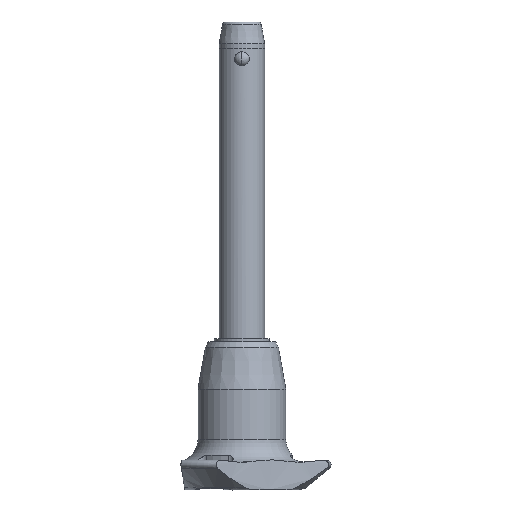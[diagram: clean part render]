
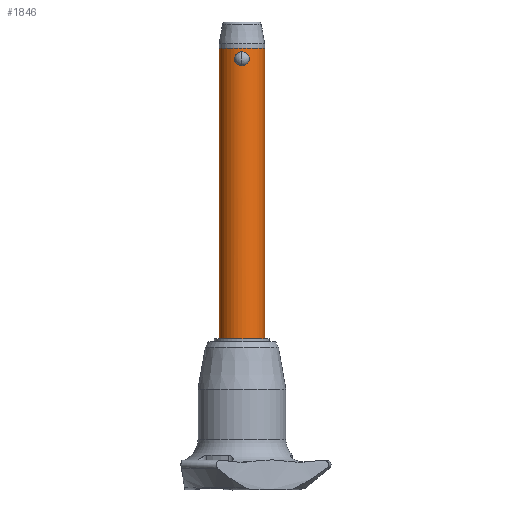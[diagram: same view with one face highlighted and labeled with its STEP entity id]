
A CAD part, front view. The second image highlights one B-rep face of the part: STEP entity #1846.
In plain terms, the highlighted cylindrical face has radius 5 mm (diameter 10 mm), a partial arc.
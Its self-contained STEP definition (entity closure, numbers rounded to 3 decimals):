
#9 = AXIS2_PLACEMENT_3D ( 'NONE', #2600, #1703, #2773 ) ;
#31 = ORIENTED_EDGE ( 'NONE', *, *, #671, .F. ) ;
#53 = ORIENTED_EDGE ( 'NONE', *, *, #118, .F. ) ;
#105 = CARTESIAN_POINT ( 'NONE',  ( 0.205, -5., 0. ) ) ;
#117 = CARTESIAN_POINT ( 'NONE',  ( 0.7, -4.952, 2.888 ) ) ;
#118 = EDGE_CURVE ( 'NONE', #2210, #1443, #1680, .T. ) ;
#151 = CARTESIAN_POINT ( 'NONE',  ( 1.551, -4.753, 1.922 ) ) ;
#176 = CARTESIAN_POINT ( 'NONE',  ( -5., 0., -60. ) ) ;
#209 = EDGE_CURVE ( 'NONE', #1443, #2210, #263, .T. ) ;
#211 = CARTESIAN_POINT ( 'NONE',  ( 0., -5., 3.033 ) ) ;
#254 = CARTESIAN_POINT ( 'NONE',  ( -0.412, -4.987, 0.037 ) ) ;
#263 = B_SPLINE_CURVE_WITH_KNOTS ( 'NONE', 3,
 ( #2311, #105, #1411, #779, #321, #2510, #313, #2539, #1201, #2552, #581, #2737, #1834, #365, #1230, #151, #1016, #2298, #976, #2080, #1641, #552, #117, #593, #1176, #2051 ),
 .UNSPECIFIED., .F., .F.,
 ( 4, 2, 2, 2, 2, 2, 2, 2, 2, 2, 2, 2, 4 ),
 ( 0.005, 0.006, 0.006, 0.006, 0.006, 0.007, 0.007, 0.008, 0.008, 0.009, 0.009, 0.009, 0.01 ),
 .UNSPECIFIED. ) ;
#313 = CARTESIAN_POINT ( 'NONE',  ( 1.047, -4.89, 0.356 ) ) ;
#321 = CARTESIAN_POINT ( 'NONE',  ( 0.792, -4.938, 0.19 ) ) ;
#365 = CARTESIAN_POINT ( 'NONE',  ( 1.604, -4.736, 1.619 ) ) ;
#514 = CARTESIAN_POINT ( 'NONE',  ( -1.197, -4.855, 2.539 ) ) ;
#529 = CARTESIAN_POINT ( 'NONE',  ( -1.394, -4.802, 0.731 ) ) ;
#552 = CARTESIAN_POINT ( 'NONE',  ( 0.792, -4.938, 2.844 ) ) ;
#581 = CARTESIAN_POINT ( 'NONE',  ( 1.434, -4.79, 0.822 ) ) ;
#593 = CARTESIAN_POINT ( 'NONE',  ( 0.412, -4.987, 2.996 ) ) ;
#623 = EDGE_CURVE ( 'NONE', #1849, #1885, #1164, .T. ) ;
#652 = ORIENTED_EDGE ( 'NONE', *, *, #623, .T. ) ;
#671 = EDGE_CURVE ( 'NONE', #2511, #2439, #1659, .T. ) ;
#684 = CARTESIAN_POINT ( 'NONE',  ( -0.792, -4.938, 0.19 ) ) ;
#701 = AXIS2_PLACEMENT_3D ( 'NONE', #2533, #1435, #2319 ) ;
#702 = CARTESIAN_POINT ( 'NONE',  ( -0.412, -4.987, 2.997 ) ) ;
#723 = EDGE_LOOP ( 'NONE', ( #53, #1456 ) ) ;
#740 = CARTESIAN_POINT ( 'NONE',  ( -1.604, -4.736, 1.416 ) ) ;
#768 = CARTESIAN_POINT ( 'NONE',  ( 5., 0., -60. ) ) ;
#779 = CARTESIAN_POINT ( 'NONE',  ( 0.699, -4.952, 0.144 ) ) ;
#877 = CIRCLE ( 'NONE', #9, 5. ) ;
#893 = CARTESIAN_POINT ( 'NONE',  ( -1.272, -4.838, 0.564 ) ) ;
#949 = CARTESIAN_POINT ( 'NONE',  ( -1.56, -4.751, 1.931 ) ) ;
#976 = CARTESIAN_POINT ( 'NONE',  ( 1.272, -4.838, 2.47 ) ) ;
#1002 = ORIENTED_EDGE ( 'NONE', *, *, #2801, .F. ) ;
#1016 = CARTESIAN_POINT ( 'NONE',  ( 1.519, -4.764, 2.021 ) ) ;
#1106 = CARTESIAN_POINT ( 'NONE',  ( -0.7, -4.952, 2.888 ) ) ;
#1121 = CARTESIAN_POINT ( 'NONE',  ( -0.205, -5., 0. ) ) ;
#1150 = CARTESIAN_POINT ( 'NONE',  ( 0., -5., 3.033 ) ) ;
#1164 = LINE ( 'NONE', #768, #2563 ) ;
#1176 = CARTESIAN_POINT ( 'NONE',  ( 0.208, -5., 3.033 ) ) ;
#1195 = CIRCLE ( 'NONE', #1827, 5. ) ;
#1201 = CARTESIAN_POINT ( 'NONE',  ( 1.265, -4.838, 0.57 ) ) ;
#1230 = CARTESIAN_POINT ( 'NONE',  ( 1.594, -4.739, 1.721 ) ) ;
#1254 = FACE_OUTER_BOUND ( 'NONE', #2312, .T. ) ;
#1316 = CARTESIAN_POINT ( 'NONE',  ( 0., 0., -60. ) ) ;
#1338 = CARTESIAN_POINT ( 'NONE',  ( -1.551, -4.753, 1.11 ) ) ;
#1377 = CARTESIAN_POINT ( 'NONE',  ( -1.264, -4.838, 2.464 ) ) ;
#1389 = CARTESIAN_POINT ( 'NONE',  ( -1.047, -4.89, 0.357 ) ) ;
#1411 = CARTESIAN_POINT ( 'NONE',  ( 0.412, -4.987, 0.037 ) ) ;
#1422 = CARTESIAN_POINT ( 'NONE',  ( 0., -5., 0. ) ) ;
#1435 = DIRECTION ( 'NONE',  ( 0., 0., 1. ) ) ;
#1443 = VERTEX_POINT ( 'NONE', #1422 ) ;
#1456 = ORIENTED_EDGE ( 'NONE', *, *, #209, .F. ) ;
#1533 = CARTESIAN_POINT ( 'NONE',  ( 5., 0., -60. ) ) ;
#1560 = CARTESIAN_POINT ( 'NONE',  ( 0., -5., 0. ) ) ;
#1583 = CARTESIAN_POINT ( 'NONE',  ( -0.791, -4.938, 2.844 ) ) ;
#1600 = CARTESIAN_POINT ( 'NONE',  ( -1.594, -4.739, 1.312 ) ) ;
#1620 = CYLINDRICAL_SURFACE ( 'NONE', #701, 5. ) ;
#1641 = CARTESIAN_POINT ( 'NONE',  ( 0.966, -4.907, 2.738 ) ) ;
#1659 = LINE ( 'NONE', #176, #2608 ) ;
#1680 = B_SPLINE_CURVE_WITH_KNOTS ( 'NONE', 3,
 ( #1150, #2212, #702, #1106, #1583, #2472, #2696, #514, #1377, #2642, #2039, #949, #1818, #740, #1600, #1338, #2487, #529, #893, #1389, #1982, #684, #2426, #254, #1121, #1560 ),
 .UNSPECIFIED., .F., .F.,
 ( 4, 2, 2, 2, 2, 2, 2, 2, 2, 2, 2, 2, 4 ),
 ( 0., 0.001, 0.001, 0.001, 0.002, 0.002, 0.002, 0.003, 0.003, 0.004, 0.004, 0.004, 0.005 ),
 .UNSPECIFIED. ) ;
#1703 = DIRECTION ( 'NONE',  ( 0., 0., 1. ) ) ;
#1818 = CARTESIAN_POINT ( 'NONE',  ( -1.604, -4.736, 1.724 ) ) ;
#1827 = AXIS2_PLACEMENT_3D ( 'NONE', #1316, #1963, #2828 ) ;
#1834 = CARTESIAN_POINT ( 'NONE',  ( 1.604, -4.736, 1.308 ) ) ;
#1846 = ADVANCED_FACE ( 'NONE', ( #1254, #1853 ), #1620, .T. ) ;
#1849 = VERTEX_POINT ( 'NONE', #1533 ) ;
#1853 = FACE_BOUND ( 'NONE', #723, .T. ) ;
#1885 = VERTEX_POINT ( 'NONE', #1911 ) ;
#1911 = CARTESIAN_POINT ( 'NONE',  ( 5., 0., 3.84 ) ) ;
#1963 = DIRECTION ( 'NONE',  ( 0., 0., -1. ) ) ;
#1982 = CARTESIAN_POINT ( 'NONE',  ( -0.966, -4.907, 0.296 ) ) ;
#2039 = CARTESIAN_POINT ( 'NONE',  ( -1.435, -4.79, 2.209 ) ) ;
#2051 = CARTESIAN_POINT ( 'NONE',  ( 0., -5., 3.033 ) ) ;
#2080 = CARTESIAN_POINT ( 'NONE',  ( 1.048, -4.889, 2.676 ) ) ;
#2126 = CARTESIAN_POINT ( 'NONE',  ( -5., 0., -60. ) ) ;
#2210 = VERTEX_POINT ( 'NONE', #211 ) ;
#2212 = CARTESIAN_POINT ( 'NONE',  ( -0.208, -5., 3.033 ) ) ;
#2271 = DIRECTION ( 'NONE',  ( 0., 0., 1. ) ) ;
#2298 = CARTESIAN_POINT ( 'NONE',  ( 1.395, -4.802, 2.301 ) ) ;
#2311 = CARTESIAN_POINT ( 'NONE',  ( 0., -5., 0. ) ) ;
#2312 = EDGE_LOOP ( 'NONE', ( #31, #1002, #652, #2680 ) ) ;
#2319 = DIRECTION ( 'NONE',  ( 1., 0., 0. ) ) ;
#2366 = DIRECTION ( 'NONE',  ( 0., 0., 1. ) ) ;
#2426 = CARTESIAN_POINT ( 'NONE',  ( -0.699, -4.952, 0.145 ) ) ;
#2439 = VERTEX_POINT ( 'NONE', #2823 ) ;
#2472 = CARTESIAN_POINT ( 'NONE',  ( -0.965, -4.907, 2.738 ) ) ;
#2487 = CARTESIAN_POINT ( 'NONE',  ( -1.519, -4.764, 1.013 ) ) ;
#2510 = CARTESIAN_POINT ( 'NONE',  ( 0.966, -4.907, 0.296 ) ) ;
#2511 = VERTEX_POINT ( 'NONE', #2126 ) ;
#2533 = CARTESIAN_POINT ( 'NONE',  ( 0., 0., -60. ) ) ;
#2538 = EDGE_CURVE ( 'NONE', #2439, #1885, #877, .T. ) ;
#2539 = CARTESIAN_POINT ( 'NONE',  ( 1.196, -4.855, 0.493 ) ) ;
#2552 = CARTESIAN_POINT ( 'NONE',  ( 1.384, -4.805, 0.735 ) ) ;
#2563 = VECTOR ( 'NONE', #2271, 1000. ) ;
#2600 = CARTESIAN_POINT ( 'NONE',  ( 0., 0., 3.84 ) ) ;
#2608 = VECTOR ( 'NONE', #2366, 1000. ) ;
#2642 = CARTESIAN_POINT ( 'NONE',  ( -1.383, -4.805, 2.299 ) ) ;
#2680 = ORIENTED_EDGE ( 'NONE', *, *, #2538, .F. ) ;
#2696 = CARTESIAN_POINT ( 'NONE',  ( -1.047, -4.89, 2.676 ) ) ;
#2737 = CARTESIAN_POINT ( 'NONE',  ( 1.56, -4.751, 1.103 ) ) ;
#2773 = DIRECTION ( 'NONE',  ( 1., 0., 0. ) ) ;
#2801 = EDGE_CURVE ( 'NONE', #1849, #2511, #1195, .T. ) ;
#2823 = CARTESIAN_POINT ( 'NONE',  ( -5., 0., 3.84 ) ) ;
#2828 = DIRECTION ( 'NONE',  ( 1., 0., 0. ) ) ;
